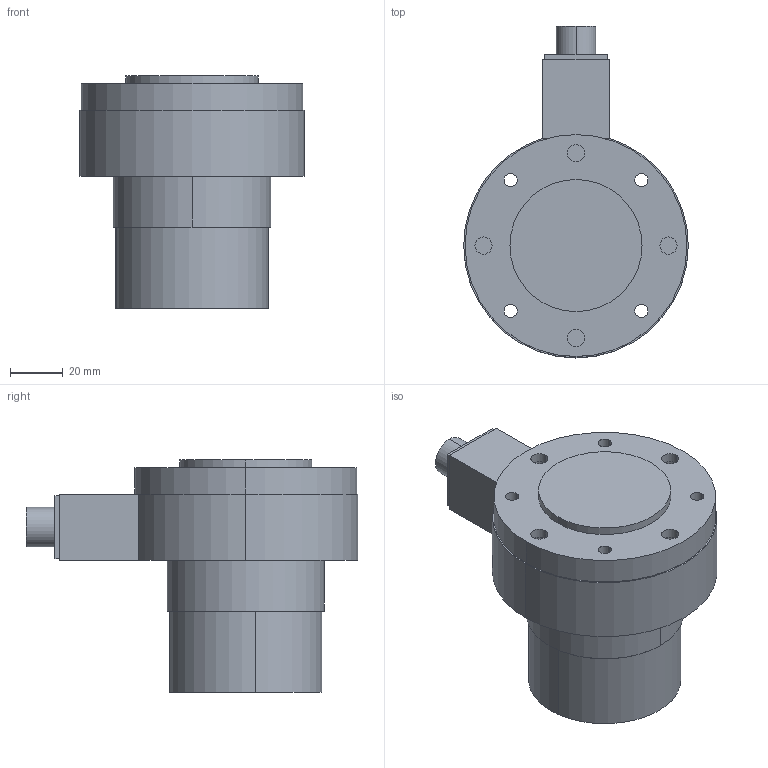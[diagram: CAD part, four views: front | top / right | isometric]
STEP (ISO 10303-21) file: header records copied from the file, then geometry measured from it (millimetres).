
FILE_DESCRIPTION (( 'STEP AP203' ), '1' );
FILE_NAME ('TR-N3C-D40-1.STEP', '2016-05-16T13:01:15', ( 'User' ), ( '' ), 'SwSTEP 2.0', 'SolidWorks 2015', '' );
FILE_SCHEMA (( 'CONFIG_CONTROL_DESIGN' ));
Length unit declared in the file: millimetre
Products named in the file (1): TR-N3C-D40-1
Bounding box: 85 x 125.62 x 88 mm (x, y, z)
Volume: 345465.2 mm3; surface area: 63593.3 mm2
Topology: 6 solids, 6 shells, 89 faces, 198 edges, 132 vertices
Faces by surface type: cylinder 57, plane 32
Entity records: 2645 total; most frequent: DIRECTION 492, CARTESIAN_POINT 420, ORIENTED_EDGE 396, AXIS2_PLACEMENT_3D 204, EDGE_CURVE 198, VERTEX_POINT 132, EDGE_LOOP 126, CIRCLE 114
